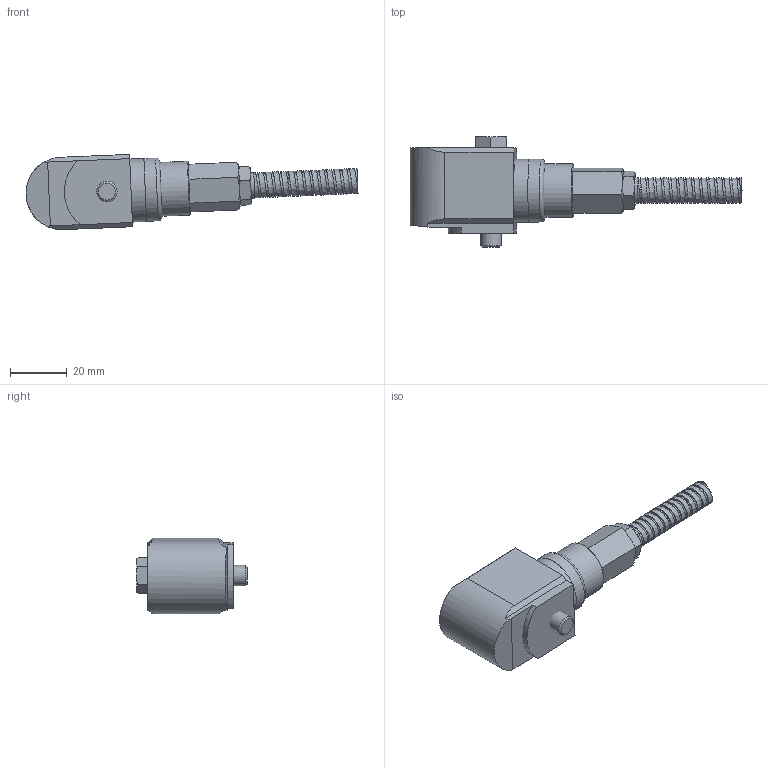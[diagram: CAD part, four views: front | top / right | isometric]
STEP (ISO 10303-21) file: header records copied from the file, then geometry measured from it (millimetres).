
FILE_DESCRIPTION(/* description */ (''),/* implementation_level */ '2;1');
FILE_NAME(/* name */ 'Z:\Engineering\Drawings\3D Library\Assemblies\Website\Premium Side\HS-150 Side Silicon Conduit\HS-150SXXX29C06.stp',/* time_stamp */ '2023-03-12T17:24:29+00:00',/* author */ ('Ricardo.Peneda'),/* organization */ (''),/* preprocessor_version */ 'ST-DEVELOPER v18.1',/* originating_system */ 'Autodesk Inventor 2021',/* authorisation */ '');
FILE_SCHEMA (('AUTOMOTIVE_DESIGN { 1 0 10303 214 3 1 1 }'));
Length unit declared in the file: inch
Products named in the file (1): HS-150SXXX29C06_Shrinkwrap_1
Bounding box: 116.89 x 39 x 26.49 mm (x, y, z)
Volume: 29754.3 mm3; surface area: 17616.8 mm2
Topology: 7 solids, 7 shells, 134 faces, 343 edges, 245 vertices
Faces by surface type: plane 66, cylinder 30, cone 28, bspline 8, torus 2
Full cylindrical faces by diameter (mm): 4.5 x1, 5.359 x1, 6.5 x1, 7.2 x1, 7.9 x2, 8.6 x1, 9 x1, 10 x1, 10.2 x1, 11.959 x1, 12 x3, 13 x1, 14 x2, 14.95 x1, 15 x2, 15.34 x1, 15.35 x1, 18 x1, 19 x1, 19.95 x1, 20 x1, 22.2 x2
Entity records: 18341 total; most frequent: CARTESIAN_POINT 14846, DIRECTION 694, ORIENTED_EDGE 686, EDGE_CURVE 343, AXIS2_PLACEMENT_3D 283, VERTEX_POINT 245, EDGE_LOOP 162, CIRCLE 151
